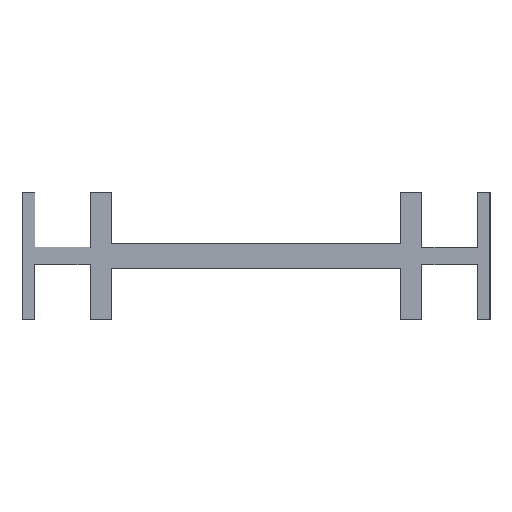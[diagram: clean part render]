
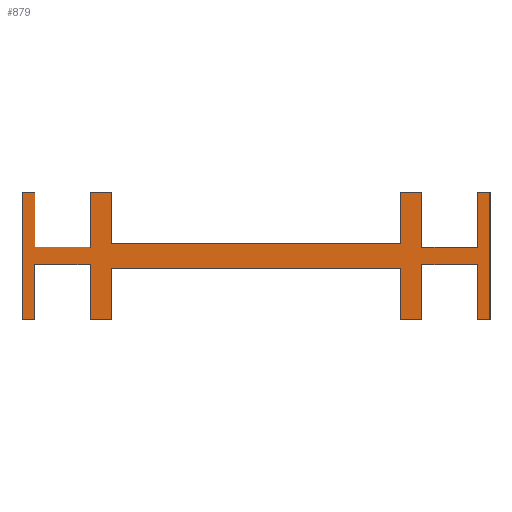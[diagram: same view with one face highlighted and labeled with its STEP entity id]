
A CAD part, left-side view. The second image highlights one B-rep face of the part: STEP entity #879.
In plain terms, the highlighted planar face has unit normal (-1, 0, 0).
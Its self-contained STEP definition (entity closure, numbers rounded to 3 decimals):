
#879=ADVANCED_FACE('',(#1579),#1580,.F.);
#1579=FACE_OUTER_BOUND('',#2460,.T.);
#1580=PLANE('',#2461);
#2460=EDGE_LOOP('',(#3537,#3538,#3539,#3540,#3541,#3542,#3543,#3544,#3545,#3546,#3547,#3548,#3549,#3550,#3551,#3552,#3553,#3554,#3555,#3556,#3557,#3558,#3559,#3560,#3561,#3562,#3563,#3564,#3565,#3566,#3567,#3568));
#2461=AXIS2_PLACEMENT_3D('',#3569,#3570,#3571);
#3537=ORIENTED_EDGE('',*,*,#4248,.T.);
#3538=ORIENTED_EDGE('',*,*,#4251,.T.);
#3539=ORIENTED_EDGE('',*,*,#4287,.T.);
#3540=ORIENTED_EDGE('',*,*,#4290,.T.);
#3541=ORIENTED_EDGE('',*,*,#4292,.T.);
#3542=ORIENTED_EDGE('',*,*,#4283,.T.);
#3543=ORIENTED_EDGE('',*,*,#4254,.F.);
#3544=ORIENTED_EDGE('',*,*,#4258,.F.);
#3545=ORIENTED_EDGE('',*,*,#4267,.F.);
#3546=ORIENTED_EDGE('',*,*,#4264,.F.);
#3547=ORIENTED_EDGE('',*,*,#4261,.F.);
#3548=ORIENTED_EDGE('',*,*,#4270,.F.);
#3549=ORIENTED_EDGE('',*,*,#4281,.F.);
#3550=ORIENTED_EDGE('',*,*,#4276,.F.);
#3551=ORIENTED_EDGE('',*,*,#4279,.F.);
#3552=ORIENTED_EDGE('',*,*,#4272,.F.);
#3553=ORIENTED_EDGE('',*,*,#4214,.F.);
#3554=ORIENTED_EDGE('',*,*,#4218,.F.);
#3555=ORIENTED_EDGE('',*,*,#4221,.F.);
#3556=ORIENTED_EDGE('',*,*,#4224,.F.);
#3557=ORIENTED_EDGE('',*,*,#4227,.F.);
#3558=ORIENTED_EDGE('',*,*,#4230,.T.);
#3559=ORIENTED_EDGE('',*,*,#4233,.T.);
#3560=ORIENTED_EDGE('',*,*,#4236,.T.);
#3561=ORIENTED_EDGE('',*,*,#4238,.T.);
#3562=ORIENTED_EDGE('',*,*,#4072,.T.);
#3563=ORIENTED_EDGE('',*,*,#4068,.T.);
#3564=ORIENTED_EDGE('',*,*,#4055,.T.);
#3565=ORIENTED_EDGE('',*,*,#4070,.F.);
#3566=ORIENTED_EDGE('',*,*,#4026,.T.);
#3567=ORIENTED_EDGE('',*,*,#4242,.T.);
#3568=ORIENTED_EDGE('',*,*,#4245,.T.);
#3569=CARTESIAN_POINT('',(0.0,26.75,7.5));
#3570=DIRECTION('',(1.0,0.,0.));
#3571=DIRECTION('',(0.,-1.0,0.0));
#4026=EDGE_CURVE('',#4645,#4672,#4674,.T.);
#4055=EDGE_CURVE('',#4718,#4716,#4719,.T.);
#4068=EDGE_CURVE('',#4733,#4718,#4736,.T.);
#4070=EDGE_CURVE('',#4645,#4716,#4738,.T.);
#4072=EDGE_CURVE('',#4740,#4733,#4741,.T.);
#4214=EDGE_CURVE('',#4958,#4960,#4961,.T.);
#4218=EDGE_CURVE('',#4964,#4958,#4966,.T.);
#4221=EDGE_CURVE('',#4968,#4964,#4970,.T.);
#4224=EDGE_CURVE('',#4972,#4968,#4974,.T.);
#4227=EDGE_CURVE('',#4976,#4972,#4978,.T.);
#4230=EDGE_CURVE('',#4976,#4980,#4982,.T.);
#4233=EDGE_CURVE('',#4980,#4984,#4986,.T.);
#4236=EDGE_CURVE('',#4984,#4988,#4990,.T.);
#4238=EDGE_CURVE('',#4988,#4740,#4992,.T.);
#4242=EDGE_CURVE('',#4672,#4995,#4997,.T.);
#4245=EDGE_CURVE('',#4995,#4999,#5001,.T.);
#4248=EDGE_CURVE('',#4999,#5003,#5005,.T.);
#4251=EDGE_CURVE('',#5003,#5007,#5009,.T.);
#4254=EDGE_CURVE('',#5011,#5013,#5014,.T.);
#4258=EDGE_CURVE('',#5017,#5011,#5019,.T.);
#4261=EDGE_CURVE('',#5021,#5023,#5024,.T.);
#4264=EDGE_CURVE('',#5023,#5027,#5028,.T.);
#4267=EDGE_CURVE('',#5027,#5017,#5031,.T.);
#4270=EDGE_CURVE('',#5033,#5021,#5035,.T.);
#4272=EDGE_CURVE('',#4960,#5037,#5038,.T.);
#4276=EDGE_CURVE('',#5041,#5043,#5044,.T.);
#4279=EDGE_CURVE('',#5037,#5041,#5047,.T.);
#4281=EDGE_CURVE('',#5043,#5033,#5049,.T.);
#4283=EDGE_CURVE('',#5051,#5013,#5052,.T.);
#4287=EDGE_CURVE('',#5007,#5055,#5057,.T.);
#4290=EDGE_CURVE('',#5055,#5059,#5061,.T.);
#4292=EDGE_CURVE('',#5059,#5051,#5063,.T.);
#4645=VERTEX_POINT('',#5239);
#4672=VERTEX_POINT('',#5272);
#4674=LINE('',#5275,#5276);
#4716=VERTEX_POINT('',#5330);
#4718=VERTEX_POINT('',#5332);
#4719=LINE('',#5333,#5334);
#4733=VERTEX_POINT('',#5351);
#4736=LINE('',#5355,#5356);
#4738=LINE('',#5358,#5359);
#4740=VERTEX_POINT('',#5361);
#4741=LINE('',#5362,#5363);
#4958=VERTEX_POINT('',#5675);
#4960=VERTEX_POINT('',#5678);
#4961=LINE('',#5679,#5680);
#4964=VERTEX_POINT('',#5684);
#4966=LINE('',#5687,#5688);
#4968=VERTEX_POINT('',#5690);
#4970=LINE('',#5693,#5694);
#4972=VERTEX_POINT('',#5696);
#4974=LINE('',#5699,#5700);
#4976=VERTEX_POINT('',#5702);
#4978=LINE('',#5705,#5706);
#4980=VERTEX_POINT('',#5708);
#4982=LINE('',#5711,#5712);
#4984=VERTEX_POINT('',#5714);
#4986=LINE('',#5717,#5718);
#4988=VERTEX_POINT('',#5720);
#4990=LINE('',#5723,#5724);
#4992=LINE('',#5726,#5727);
#4995=VERTEX_POINT('',#5730);
#4997=LINE('',#5733,#5734);
#4999=VERTEX_POINT('',#5736);
#5001=LINE('',#5739,#5740);
#5003=VERTEX_POINT('',#5742);
#5005=LINE('',#5745,#5746);
#5007=VERTEX_POINT('',#5748);
#5009=LINE('',#5751,#5752);
#5011=VERTEX_POINT('',#5754);
#5013=VERTEX_POINT('',#5757);
#5014=LINE('',#5758,#5759);
#5017=VERTEX_POINT('',#5763);
#5019=LINE('',#5766,#5767);
#5021=VERTEX_POINT('',#5769);
#5023=VERTEX_POINT('',#5772);
#5024=LINE('',#5773,#5774);
#5027=VERTEX_POINT('',#5778);
#5028=LINE('',#5779,#5780);
#5031=LINE('',#5784,#5785);
#5033=VERTEX_POINT('',#5787);
#5035=LINE('',#5790,#5791);
#5037=VERTEX_POINT('',#5793);
#5038=LINE('',#5794,#5795);
#5041=VERTEX_POINT('',#5799);
#5043=VERTEX_POINT('',#5802);
#5044=LINE('',#5803,#5804);
#5047=LINE('',#5808,#5809);
#5049=LINE('',#5811,#5812);
#5051=VERTEX_POINT('',#5814);
#5052=LINE('',#5815,#5816);
#5055=VERTEX_POINT('',#5820);
#5057=LINE('',#5823,#5824);
#5059=VERTEX_POINT('',#5826);
#5061=LINE('',#5829,#5830);
#5063=LINE('',#5832,#5833);
#5239=CARTESIAN_POINT('',(0.0,26.0,8.505));
#5272=CARTESIAN_POINT('',(0.0,26.0,15.0));
#5275=CARTESIAN_POINT('',(0.0,26.0,0.0));
#5276=VECTOR('',#5939,1.0);
#5330=CARTESIAN_POINT('',(0.0,25.995,8.505));
#5332=CARTESIAN_POINT('',(0.0,25.995,8.503));
#5333=CARTESIAN_POINT('',(0.0,25.995,8.503));
#5334=VECTOR('',#5979,1.0);
#5351=CARTESIAN_POINT('',(0.0,26.0,8.503));
#5355=CARTESIAN_POINT('',(0.0,26.0,8.503));
#5356=VECTOR('',#5996,1.0);
#5358=CARTESIAN_POINT('',(0.0,26.0,8.505));
#5359=VECTOR('',#5997,1.0);
#5361=CARTESIAN_POINT('',(0.0,26.0,8.5));
#5362=CARTESIAN_POINT('',(0.0,26.0,0.0));
#5363=VECTOR('',#5998,1.0);
#5675=CARTESIAN_POINT('',(0.0,-19.5,8.5));
#5678=CARTESIAN_POINT('',(0.0,-26.0,8.5));
#5679=CARTESIAN_POINT('',(0.0,-19.5,8.5));
#5680=VECTOR('',#6131,1.0);
#5684=CARTESIAN_POINT('',(0.0,-19.5,15.0));
#5687=CARTESIAN_POINT('',(0.0,-19.5,15.0));
#5688=VECTOR('',#6134,1.0);
#5690=CARTESIAN_POINT('',(0.0,-17.0,15.0));
#5693=CARTESIAN_POINT('',(0.0,-17.0,15.0));
#5694=VECTOR('',#6136,1.0);
#5696=CARTESIAN_POINT('',(0.0,-17.0,9.0));
#5699=CARTESIAN_POINT('',(0.0,-17.0,0.0));
#5700=VECTOR('',#6138,1.0);
#5702=CARTESIAN_POINT('',(0.0,17.0,9.0));
#5705=CARTESIAN_POINT('',(0.0,17.0,9.0));
#5706=VECTOR('',#6140,1.0);
#5708=CARTESIAN_POINT('',(0.0,17.0,15.0));
#5711=CARTESIAN_POINT('',(0.0,17.0,0.0));
#5712=VECTOR('',#6142,1.0);
#5714=CARTESIAN_POINT('',(0.0,19.5,15.0));
#5717=CARTESIAN_POINT('',(0.0,17.0,15.0));
#5718=VECTOR('',#6144,1.0);
#5720=CARTESIAN_POINT('',(0.0,19.5,8.5));
#5723=CARTESIAN_POINT('',(0.0,19.5,15.0));
#5724=VECTOR('',#6146,1.0);
#5726=CARTESIAN_POINT('',(0.0,19.5,8.5));
#5727=VECTOR('',#6147,1.0);
#5730=CARTESIAN_POINT('',(0.0,27.5,15.0));
#5733=CARTESIAN_POINT('',(0.0,26.0,15.0));
#5734=VECTOR('',#6149,1.0);
#5736=CARTESIAN_POINT('',(0.0,27.5,0.0));
#5739=CARTESIAN_POINT('',(0.0,27.5,15.0));
#5740=VECTOR('',#6151,1.0);
#5742=CARTESIAN_POINT('',(0.0,26.0,0.0));
#5745=CARTESIAN_POINT('',(0.0,27.5,0.0));
#5746=VECTOR('',#6153,1.0);
#5748=CARTESIAN_POINT('',(0.0,26.0,6.5));
#5751=CARTESIAN_POINT('',(0.0,26.0,0.0));
#5752=VECTOR('',#6155,1.0);
#5754=CARTESIAN_POINT('',(0.0,-17.0,6.0));
#5757=CARTESIAN_POINT('',(0.0,17.0,6.0));
#5758=CARTESIAN_POINT('',(0.0,-17.0,6.0));
#5759=VECTOR('',#6157,1.0);
#5763=CARTESIAN_POINT('',(0.0,-17.0,0.0));
#5766=CARTESIAN_POINT('',(0.0,-17.0,0.0));
#5767=VECTOR('',#6160,1.0);
#5769=CARTESIAN_POINT('',(0.0,-26.0,6.5));
#5772=CARTESIAN_POINT('',(0.0,-19.5,6.5));
#5773=CARTESIAN_POINT('',(0.0,-26.0,6.5));
#5774=VECTOR('',#6162,1.0);
#5778=CARTESIAN_POINT('',(0.0,-19.5,0.0));
#5779=CARTESIAN_POINT('',(0.0,-19.5,15.0));
#5780=VECTOR('',#6164,1.0);
#5784=CARTESIAN_POINT('',(0.0,-19.5,0.0));
#5785=VECTOR('',#6166,1.0);
#5787=CARTESIAN_POINT('',(0.0,-26.0,0.0));
#5790=CARTESIAN_POINT('',(0.0,-26.0,0.0));
#5791=VECTOR('',#6168,1.0);
#5793=CARTESIAN_POINT('',(0.0,-26.0,15.0));
#5794=CARTESIAN_POINT('',(0.0,-26.0,0.0));
#5795=VECTOR('',#6169,1.0);
#5799=CARTESIAN_POINT('',(0.0,-27.5,15.0));
#5802=CARTESIAN_POINT('',(0.0,-27.5,0.0));
#5803=CARTESIAN_POINT('',(0.0,-27.5,15.0));
#5804=VECTOR('',#6172,1.0);
#5808=CARTESIAN_POINT('',(0.0,-26.0,15.0));
#5809=VECTOR('',#6174,1.0);
#5811=CARTESIAN_POINT('',(0.0,-27.5,0.0));
#5812=VECTOR('',#6175,1.0);
#5814=CARTESIAN_POINT('',(0.0,17.0,0.0));
#5815=CARTESIAN_POINT('',(0.0,17.0,0.0));
#5816=VECTOR('',#6176,1.0);
#5820=CARTESIAN_POINT('',(0.0,19.5,6.5));
#5823=CARTESIAN_POINT('',(0.0,26.0,6.5));
#5824=VECTOR('',#6179,1.0);
#5826=CARTESIAN_POINT('',(0.0,19.5,0.0));
#5829=CARTESIAN_POINT('',(0.0,19.5,15.0));
#5830=VECTOR('',#6181,1.0);
#5832=CARTESIAN_POINT('',(0.0,19.5,0.0));
#5833=VECTOR('',#6182,1.0);
#5939=DIRECTION('',(0.,0.0,1.0));
#5979=DIRECTION('',(0.0,0.,1.0));
#5996=DIRECTION('',(0.0,-1.0,0.));
#5997=DIRECTION('',(0.0,-1.0,0.));
#5998=DIRECTION('',(0.,0.0,1.0));
#6131=DIRECTION('',(0.,-1.0,0.0));
#6134=DIRECTION('',(0.,0.0,-1.0));
#6136=DIRECTION('',(0.,-1.0,0.0));
#6138=DIRECTION('',(0.,0.0,1.0));
#6140=DIRECTION('',(0.,-1.0,0.0));
#6142=DIRECTION('',(0.,0.0,1.0));
#6144=DIRECTION('',(0.,1.0,0.0));
#6146=DIRECTION('',(0.,0.0,-1.0));
#6147=DIRECTION('',(0.,1.0,0.0));
#6149=DIRECTION('',(0.,1.0,0.0));
#6151=DIRECTION('',(0.,0.0,-1.0));
#6153=DIRECTION('',(0.,-1.0,0.0));
#6155=DIRECTION('',(0.,0.0,1.0));
#6157=DIRECTION('',(0.,1.0,0.0));
#6160=DIRECTION('',(0.,0.0,1.0));
#6162=DIRECTION('',(0.,1.0,0.0));
#6164=DIRECTION('',(0.,0.0,-1.0));
#6166=DIRECTION('',(0.,1.0,0.0));
#6168=DIRECTION('',(0.,0.0,1.0));
#6169=DIRECTION('',(0.,0.0,1.0));
#6172=DIRECTION('',(0.,0.0,-1.0));
#6174=DIRECTION('',(0.,-1.0,0.0));
#6175=DIRECTION('',(0.,1.0,0.0));
#6176=DIRECTION('',(0.,0.0,1.0));
#6179=DIRECTION('',(0.,-1.0,0.0));
#6181=DIRECTION('',(0.,0.0,-1.0));
#6182=DIRECTION('',(0.,-1.0,0.0));
